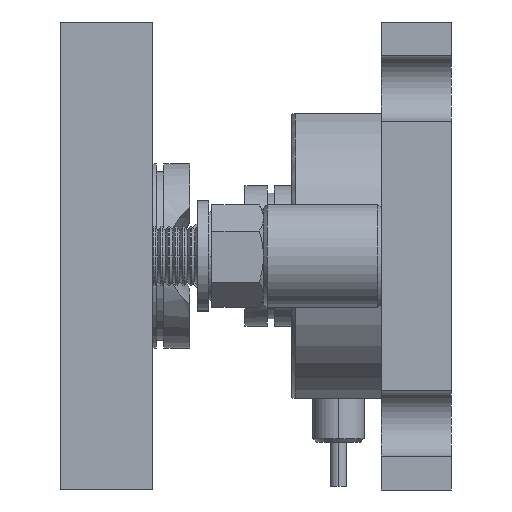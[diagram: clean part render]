
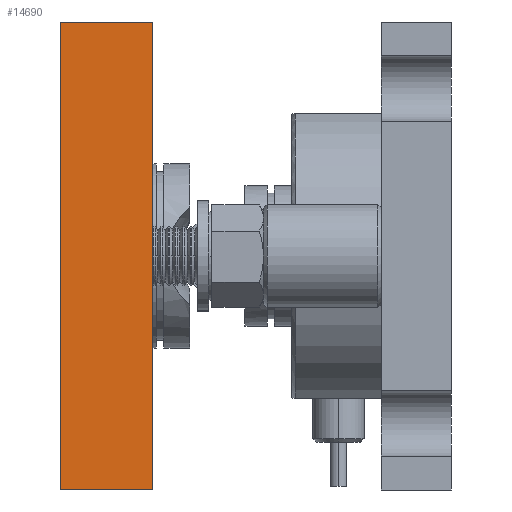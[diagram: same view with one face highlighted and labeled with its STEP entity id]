
A CAD part, left-side view. The second image highlights one B-rep face of the part: STEP entity #14690.
In plain terms, the highlighted planar face has unit normal (-1, 0, 0).
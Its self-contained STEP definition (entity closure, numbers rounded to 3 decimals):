
#974 = EDGE_LOOP ( 'NONE', ( #15358, #15688, #4510, #16956 ) ) ;
#2311 = VERTEX_POINT ( 'NONE', #15073 ) ;
#2854 = VECTOR ( 'NONE', #11251, 1000. ) ;
#3261 = CARTESIAN_POINT ( 'NONE',  ( -101.5, 0., -63.5 ) ) ;
#3735 = VECTOR ( 'NONE', #13844, 1000. ) ;
#3851 = AXIS2_PLACEMENT_3D ( 'NONE', #5350, #6761, #16613 ) ;
#3952 = DIRECTION ( 'NONE',  ( 0., 0., 1. ) ) ;
#4134 = CARTESIAN_POINT ( 'NONE',  ( -101.5, 0., 63.5 ) ) ;
#4490 = VERTEX_POINT ( 'NONE', #4134 ) ;
#4510 = ORIENTED_EDGE ( 'NONE', *, *, #4690, .F. ) ;
#4690 = EDGE_CURVE ( 'NONE', #2311, #8225, #11877, .T. ) ;
#5350 = CARTESIAN_POINT ( 'NONE',  ( -101.5, 25., -63.5 ) ) ;
#5416 = CARTESIAN_POINT ( 'NONE',  ( -101.5, 25., 63.5 ) ) ;
#5903 = CARTESIAN_POINT ( 'NONE',  ( -101.5, 25., -63.5 ) ) ;
#6238 = CARTESIAN_POINT ( 'NONE',  ( -101.5, 25., 63.5 ) ) ;
#6330 = LINE ( 'NONE', #17957, #13387 ) ;
#6724 = VERTEX_POINT ( 'NONE', #3261 ) ;
#6761 = DIRECTION ( 'NONE',  ( 1., 0., 0. ) ) ;
#7910 = LINE ( 'NONE', #5416, #3735 ) ;
#8225 = VERTEX_POINT ( 'NONE', #6238 ) ;
#8820 = DIRECTION ( 'NONE',  ( 0., 0., 1. ) ) ;
#11251 = DIRECTION ( 'NONE',  ( 0., -1., 0. ) ) ;
#11877 = LINE ( 'NONE', #5903, #15204 ) ;
#12672 = CARTESIAN_POINT ( 'NONE',  ( -101.5, 25., -63.5 ) ) ;
#13387 = VECTOR ( 'NONE', #3952, 1000. ) ;
#13787 = PLANE ( 'NONE',  #3851 ) ;
#13844 = DIRECTION ( 'NONE',  ( 0., -1., 0. ) ) ;
#14690 = ADVANCED_FACE ( 'NONE', ( #15422 ), #13787, .F. ) ;
#14740 = EDGE_CURVE ( 'NONE', #8225, #4490, #7910, .T. ) ;
#14845 = EDGE_CURVE ( 'NONE', #2311, #6724, #16951, .T. ) ;
#15073 = CARTESIAN_POINT ( 'NONE',  ( -101.5, 25., -63.5 ) ) ;
#15204 = VECTOR ( 'NONE', #8820, 1000. ) ;
#15358 = ORIENTED_EDGE ( 'NONE', *, *, #17423, .T. ) ;
#15422 = FACE_OUTER_BOUND ( 'NONE', #974, .T. ) ;
#15688 = ORIENTED_EDGE ( 'NONE', *, *, #14740, .F. ) ;
#16613 = DIRECTION ( 'NONE',  ( 0., 0., -1. ) ) ;
#16951 = LINE ( 'NONE', #12672, #2854 ) ;
#16956 = ORIENTED_EDGE ( 'NONE', *, *, #14845, .T. ) ;
#17423 = EDGE_CURVE ( 'NONE', #6724, #4490, #6330, .T. ) ;
#17957 = CARTESIAN_POINT ( 'NONE',  ( -101.5, 0., -63.5 ) ) ;
